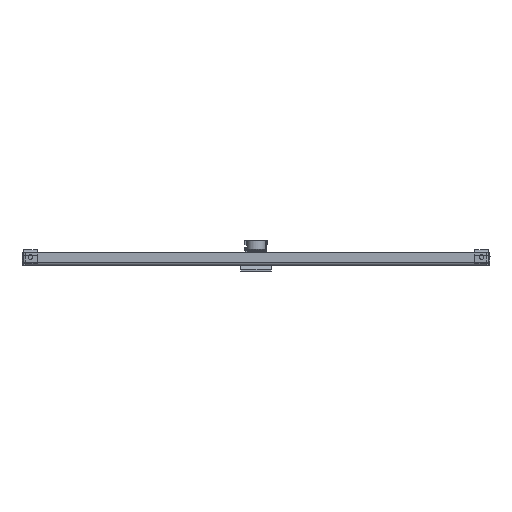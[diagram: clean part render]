
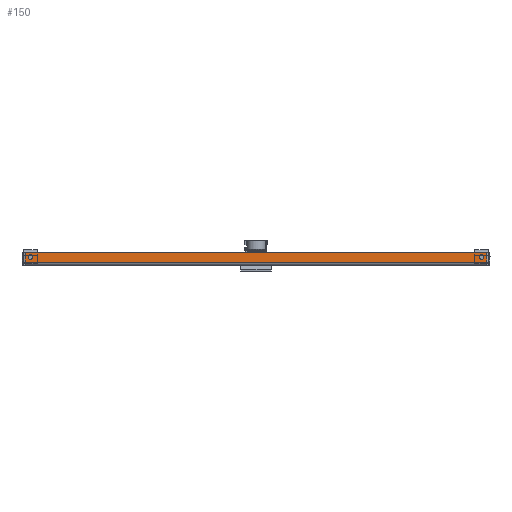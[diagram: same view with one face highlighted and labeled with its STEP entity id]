
A CAD part, left-side view. The second image highlights one B-rep face of the part: STEP entity #150.
In plain terms, the highlighted planar face has unit normal (-1, 0, 0).
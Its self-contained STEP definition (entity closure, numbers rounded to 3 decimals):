
#150=ADVANCED_FACE('',(#799,#801,#803),#805,.F.);
#799=FACE_BOUND('',#800,.T.);
#800=EDGE_LOOP('',(#3544,#3545,#3546,#3547));
#801=FACE_BOUND('',#802,.T.);
#802=EDGE_LOOP('',(#3548));
#803=FACE_BOUND('',#804,.T.);
#804=EDGE_LOOP('',(#3549));
#805=PLANE('',#806);
#806=AXIS2_PLACEMENT_3D('',#807,#808,#809);
#807=CARTESIAN_POINT('',(-293.2,0.,0.));
#808=DIRECTION('',(1.,0.,0.));
#809=DIRECTION('',(0.,-1.,0.));
#3544=ORIENTED_EDGE('',*,*,#5313,.F.);
#3545=ORIENTED_EDGE('',*,*,#5315,.F.);
#3546=ORIENTED_EDGE('',*,*,#5316,.F.);
#3547=ORIENTED_EDGE('',*,*,#5317,.F.);
#3548=ORIENTED_EDGE('',*,*,#5130,.T.);
#3549=ORIENTED_EDGE('',*,*,#5132,.F.);
#5130=EDGE_CURVE('',#6046,#6046,#6047,.T.);
#5132=EDGE_CURVE('',#6050,#6050,#6051,.T.);
#5313=EDGE_CURVE('',#6352,#6345,#6356,.T.);
#5315=EDGE_CURVE('',#6358,#6352,#6359,.T.);
#5316=EDGE_CURVE('',#6360,#6358,#6361,.T.);
#5317=EDGE_CURVE('',#6345,#6360,#6362,.T.);
#6046=VERTEX_POINT('',#7552);
#6047=CIRCLE('',#7553,2.5);
#6050=VERTEX_POINT('',#7562);
#6051=CIRCLE('',#7563,2.5);
#6345=VERTEX_POINT('',#8305);
#6352=VERTEX_POINT('',#8325);
#6356=LINE('',#8336,#8337);
#6358=VERTEX_POINT('',#8342);
#6359=LINE('',#8343,#8344);
#6360=VERTEX_POINT('',#8346);
#6361=LINE('',#8347,#8348);
#6362=LINE('',#8350,#8351);
#7552=CARTESIAN_POINT('',(-293.2,-239.5,11.5));
#7553=AXIS2_PLACEMENT_3D('',#7554,#7555,#7556);
#7554=CARTESIAN_POINT('',(-293.2,-239.5,9.));
#7555=DIRECTION('',(1.,0.,0.));
#7556=DIRECTION('',(0.,0.,1.));
#7562=CARTESIAN_POINT('',(-293.2,239.5,11.5));
#7563=AXIS2_PLACEMENT_3D('',#7564,#7565,#7566);
#7564=CARTESIAN_POINT('',(-293.2,239.5,9.));
#7565=DIRECTION('',(-1.,0.,0.));
#7566=DIRECTION('',(0.,0.,-1.));
#8305=CARTESIAN_POINT('',(-293.2,245.1,3.4));
#8325=CARTESIAN_POINT('',(-293.2,-245.1,3.4));
#8336=CARTESIAN_POINT('',(-293.2,-245.1,3.4));
#8337=VECTOR('',#8338,1.);
#8338=DIRECTION('',(0.,1.,0.));
#8342=CARTESIAN_POINT('',(-293.2,-245.1,14.));
#8343=CARTESIAN_POINT('',(-293.2,-245.1,14.));
#8344=VECTOR('',#8345,1.);
#8345=DIRECTION('',(0.,0.,-1.));
#8346=CARTESIAN_POINT('',(-293.2,245.1,14.));
#8347=CARTESIAN_POINT('',(-293.2,245.1,14.));
#8348=VECTOR('',#8349,1.);
#8349=DIRECTION('',(0.,-1.,0.));
#8350=CARTESIAN_POINT('',(-293.2,245.1,3.4));
#8351=VECTOR('',#8352,1.);
#8352=DIRECTION('',(0.,0.,1.));
